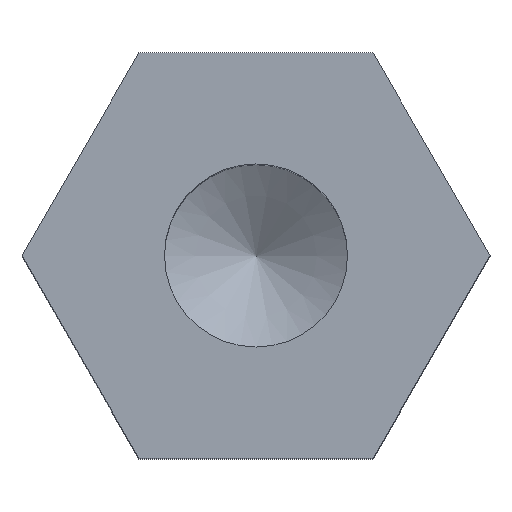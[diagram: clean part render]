
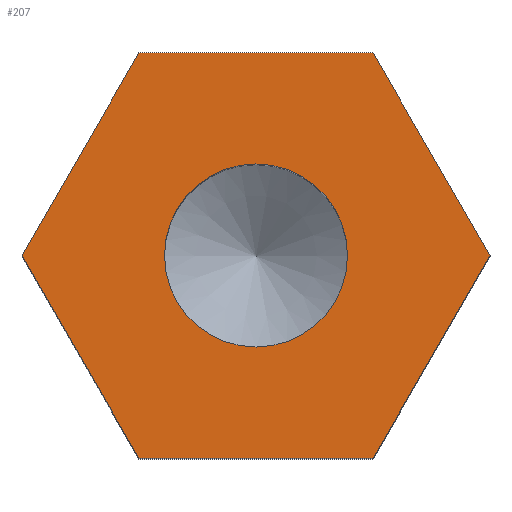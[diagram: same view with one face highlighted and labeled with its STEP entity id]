
A CAD part, top view. The second image highlights one B-rep face of the part: STEP entity #207.
In plain terms, the highlighted planar face has unit normal (0, 0, 1).
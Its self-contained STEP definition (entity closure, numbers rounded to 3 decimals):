
#19=FACE_BOUND('',#55,.T.);
#28=PLANE('',#238);
#42=FACE_OUTER_BOUND('',#54,.T.);
#54=EDGE_LOOP('',(#182,#183,#184,#185,#186,#187));
#55=EDGE_LOOP('',(#188));
#63=LINE('',#325,#84);
#66=LINE('',#331,#87);
#69=LINE('',#337,#90);
#72=LINE('',#343,#93);
#75=LINE('',#349,#96);
#78=LINE('',#353,#99);
#84=VECTOR('',#268,10.);
#87=VECTOR('',#273,10.);
#90=VECTOR('',#278,10.);
#93=VECTOR('',#283,10.);
#96=VECTOR('',#288,10.);
#99=VECTOR('',#293,10.);
#101=CIRCLE('',#227,1.265);
#106=VERTEX_POINT('',#308);
#111=VERTEX_POINT('',#322);
#112=VERTEX_POINT('',#324);
#114=VERTEX_POINT('',#330);
#116=VERTEX_POINT('',#336);
#118=VERTEX_POINT('',#342);
#120=VERTEX_POINT('',#348);
#123=EDGE_CURVE('',#106,#106,#101,.T.);
#130=EDGE_CURVE('',#112,#111,#63,.T.);
#133=EDGE_CURVE('',#114,#112,#66,.T.);
#136=EDGE_CURVE('',#116,#114,#69,.T.);
#139=EDGE_CURVE('',#118,#116,#72,.T.);
#142=EDGE_CURVE('',#120,#118,#75,.T.);
#145=EDGE_CURVE('',#111,#120,#78,.T.);
#182=ORIENTED_EDGE('',*,*,#145,.T.);
#183=ORIENTED_EDGE('',*,*,#142,.T.);
#184=ORIENTED_EDGE('',*,*,#139,.T.);
#185=ORIENTED_EDGE('',*,*,#136,.T.);
#186=ORIENTED_EDGE('',*,*,#133,.T.);
#187=ORIENTED_EDGE('',*,*,#130,.T.);
#188=ORIENTED_EDGE('',*,*,#123,.T.);
#207=ADVANCED_FACE('',(#42,#19),#28,.T.);
#227=AXIS2_PLACEMENT_3D('',#309,#252,#253);
#238=AXIS2_PLACEMENT_3D('',#354,#294,#295);
#252=DIRECTION('center_axis',(0.,0.,-1.));
#253=DIRECTION('ref_axis',(1.,0.,0.));
#268=DIRECTION('',(-0.5,0.866,0.));
#273=DIRECTION('',(0.5,0.866,0.));
#278=DIRECTION('',(1.,0.,0.));
#283=DIRECTION('',(0.5,-0.866,0.));
#288=DIRECTION('',(-0.5,-0.866,0.));
#293=DIRECTION('',(-1.,0.,0.));
#294=DIRECTION('center_axis',(0.,0.,1.));
#295=DIRECTION('ref_axis',(1.,0.,0.));
#308=CARTESIAN_POINT('',(-1.265,0.,8.));
#309=CARTESIAN_POINT('Origin',(0.,0.,8.));
#322=CARTESIAN_POINT('',(1.617,2.8,8.));
#324=CARTESIAN_POINT('',(3.233,0.,8.));
#325=CARTESIAN_POINT('',(3.233,0.,8.));
#330=CARTESIAN_POINT('',(1.617,-2.8,8.));
#331=CARTESIAN_POINT('',(1.617,-2.8,8.));
#336=CARTESIAN_POINT('',(-1.617,-2.8,8.));
#337=CARTESIAN_POINT('',(-1.617,-2.8,8.));
#342=CARTESIAN_POINT('',(-3.233,0.,8.));
#343=CARTESIAN_POINT('',(-3.233,0.,8.));
#348=CARTESIAN_POINT('',(-1.617,2.8,8.));
#349=CARTESIAN_POINT('',(-1.617,2.8,8.));
#353=CARTESIAN_POINT('',(1.617,2.8,8.));
#354=CARTESIAN_POINT('Origin',(0.,0.,8.));
